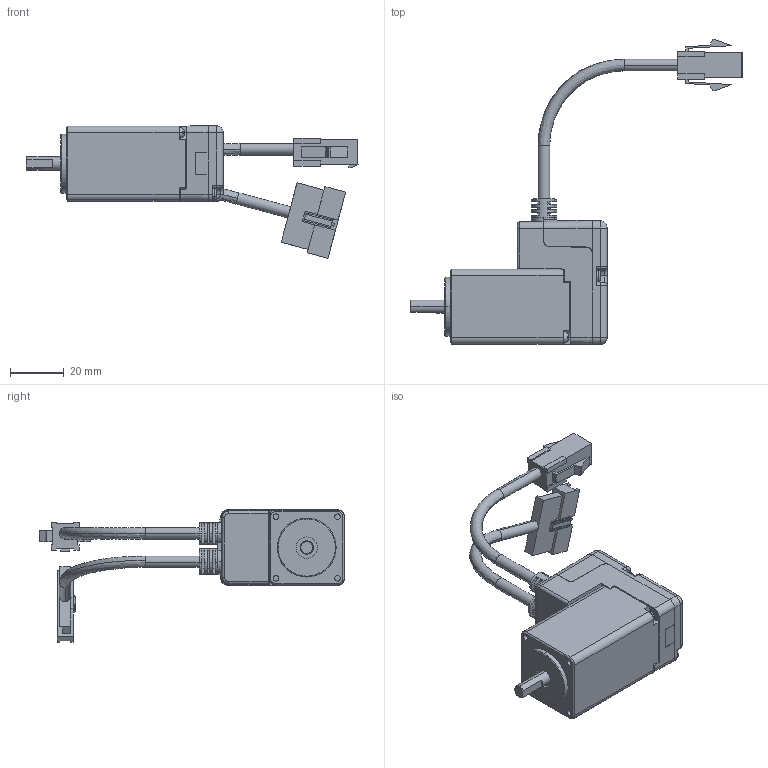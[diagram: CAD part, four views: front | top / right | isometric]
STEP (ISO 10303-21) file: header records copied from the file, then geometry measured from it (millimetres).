
FILE_DESCRIPTION (( 'STEP AP203' ), '1' );
FILE_NAME ('P11-MO-028-13-R00.STEP', '2018-01-17T08:26:42', ( '' ), ( '' ), 'SwSTEP 2.0', 'SolidWorks 2013', '' );
FILE_SCHEMA (( 'CONFIG_CONTROL_DESIGN' ));
Length unit declared in the file: millimetre
Products named in the file (10): pan cross head_ks_KS 1023 PC- M2.6 x 16-N; pan cross head_ks_KS 1023 PC- M2 x 20-N; M11-MO-028-10-R00; 532530670; P11-MO-028-13-R00; M11-EC-028-01-R00; M11-EC-028-02-R00; 28阿 葛磐 啊悼屈 纳捞喉_钎霖; 28阿 浚内歹 啊悼屈 纳捞喉_钎霖
Assembly tree (11 placements, depth 3):
  P11-MO-028-13-R00
    532530670
    M11-EC-028-01-R00
    M11-EC-028-02-R00
    28阿 葛磐 啊悼屈 纳捞喉_钎霖
    28阿 浚内歹 啊悼屈 纳捞喉_钎霖
    pan cross head_ks_KS 1023 PC- M2.6 x 16-N  x2
    pan cross head_ks_KS 1023 PC- M2 x 20-N
    M11-MO-028-10-R00
      M11-MO-028-10-R00
      532530670
Bounding box: 124 x 113.98 x 49.52 mm (x, y, z)
Volume: 50806.6 mm3; surface area: 28469 mm2
Topology: 10 solids, 10 shells, 1253 faces, 3248 edges, 2066 vertices
Faces by surface type: plane 870, cylinder 237, cone 73, bspline 35, torus 20, sphere 18
Entity records: 32641 total; most frequent: CARTESIAN_POINT 7976, ORIENTED_EDGE 4962, DIRECTION 4836, EDGE_CURVE 2481, LINE 1678, VECTOR 1678, VERTEX_POINT 1591, AXIS2_PLACEMENT_3D 1579
